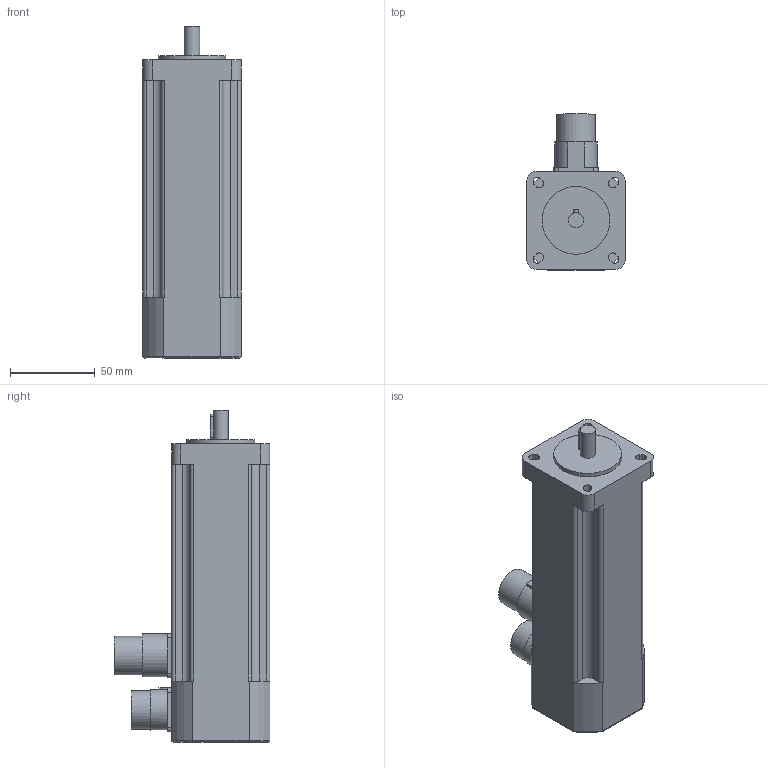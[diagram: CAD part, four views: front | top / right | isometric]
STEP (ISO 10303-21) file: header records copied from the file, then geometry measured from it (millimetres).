
FILE_DESCRIPTION(/* description */ (''),/* implementation_level */ '2;1');
FILE_NAME(/* name */ '\\Lafnas01\disegni\Archivi Lafert\3D\CAD 3D\MODELLI\Assiemi clienti\Serad\Modelli 3D Serad\B28I\Resolver\Res With Brake\B28D6Ixx4B050033.ipt.stp',/* time_stamp */ '2015-09-07T10:48:12+02:00',/* author */ ('Pastrello Ylenia'),/* organization */ (''),/* preprocessor_version */ 'ST-DEVELOPER v15.6',/* originating_system */ 'Autodesk Inventor 2015',/* authorisation */ '');
FILE_SCHEMA (('AUTOMOTIVE_DESIGN { 1 0 10303 214 3 1 1 }'));
Length unit declared in the file: millimetre
Products named in the file (1): B28D6Ixx4B050033
Bounding box: 58 x 92 x 196 mm (x, y, z)
Volume: 551419.4 mm3; surface area: 51354.6 mm2
Topology: 1 solids, 1 shells, 133 faces, 356 edges, 231 vertices
Faces by surface type: plane 71, cylinder 58, torus 4
Full cylindrical faces by diameter (mm): 9 x1, 22.7 x2, 24 x1, 40 x1
Entity records: 4247 total; most frequent: CARTESIAN_POINT 847, DIRECTION 719, ORIENTED_EDGE 696, EDGE_CURVE 347, AXIS2_PLACEMENT_3D 250, VERTEX_POINT 228, LINE 219, VECTOR 219
